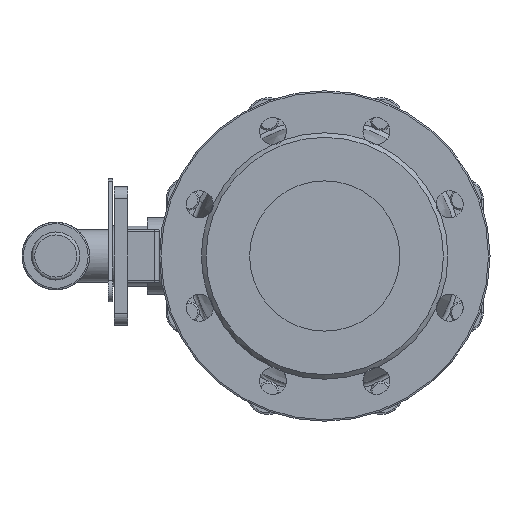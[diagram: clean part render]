
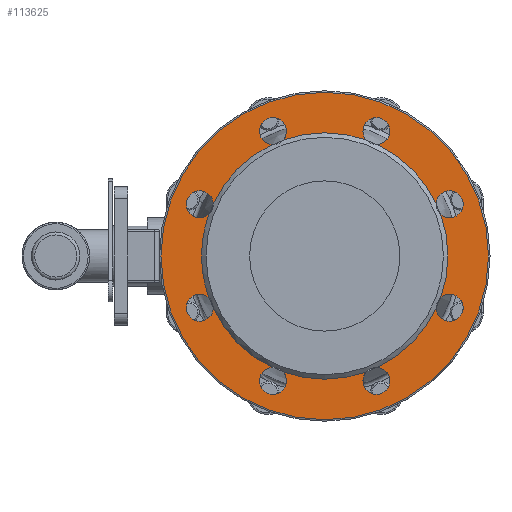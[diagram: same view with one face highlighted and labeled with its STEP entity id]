
A CAD part, left-side view. The second image highlights one B-rep face of the part: STEP entity #113625.
In plain terms, the highlighted planar face has unit normal (-1, 0, 0).
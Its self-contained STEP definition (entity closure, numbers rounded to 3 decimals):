
#113428=CARTESIAN_POINT('',(-80.,109.,0.0));
#113429=VERTEX_POINT('',#113428);
#113430=CARTESIAN_POINT('',(-80.,0.,0.0));
#113431=DIRECTION('',(1.0,0.0,0.0));
#113432=DIRECTION('',(0.0,-1.0,0.0));
#113433=AXIS2_PLACEMENT_3D('',#113430,#113431,#113432);
#113434=CIRCLE('',#113433,109.);
#113435=EDGE_CURVE('',#113429,#113429,#113434,.T.);
#113471=CARTESIAN_POINT('',(-80.,96.,0.0));
#113472=DIRECTION('',(-1.0,0.0,0.0));
#113473=DIRECTION('',(0.0,0.0,1.0));
#113474=AXIS2_PLACEMENT_3D('',#113471,#113472,#113473);
#113475=PLANE('',#113474);
#113476=ORIENTED_EDGE('',*,*,#113435,.F.);
#113477=EDGE_LOOP('',(#113476));
#113478=FACE_OUTER_BOUND('',#113477,.T.);
#113479=CARTESIAN_POINT('',(-80.,74.165,-34.979));
#113480=VERTEX_POINT('',#113479);
#113481=CARTESIAN_POINT('',(-80.,77.177,-27.709));
#113482=VERTEX_POINT('',#113481);
#113483=CARTESIAN_POINT('',(-80.,83.149,-34.442));
#113484=DIRECTION('',(1.0,0.0,0.0));
#113485=DIRECTION('',(0.0,0.0,-1.0));
#113486=AXIS2_PLACEMENT_3D('',#113483,#113484,#113485);
#113487=CIRCLE('',#113486,9.0);
#113488=EDGE_CURVE('',#113480,#113482,#113487,.T.);
#113489=ORIENTED_EDGE('',*,*,#113488,.T.);
#113490=CARTESIAN_POINT('',(-80.,77.177,27.709));
#113491=VERTEX_POINT('',#113490);
#113492=CARTESIAN_POINT('',(-80.,0.,0.0));
#113493=DIRECTION('',(1.0,0.0,0.0));
#113494=DIRECTION('',(0.0,1.0,0.0));
#113495=AXIS2_PLACEMENT_3D('',#113492,#113493,#113494);
#113496=CIRCLE('',#113495,82.);
#113497=EDGE_CURVE('',#113482,#113491,#113496,.T.);
#113498=ORIENTED_EDGE('',*,*,#113497,.T.);
#113499=CARTESIAN_POINT('',(-80.,74.165,34.979));
#113500=VERTEX_POINT('',#113499);
#113501=CARTESIAN_POINT('',(-80.,83.149,34.442));
#113502=DIRECTION('',(1.0,0.0,0.0));
#113503=DIRECTION('',(0.0,0.0,-1.0));
#113504=AXIS2_PLACEMENT_3D('',#113501,#113502,#113503);
#113505=CIRCLE('',#113504,9.0);
#113506=EDGE_CURVE('',#113491,#113500,#113505,.T.);
#113507=ORIENTED_EDGE('',*,*,#113506,.T.);
#113508=CARTESIAN_POINT('',(-80.,34.979,74.165));
#113509=VERTEX_POINT('',#113508);
#113510=CARTESIAN_POINT('',(-80.,0.,0.0));
#113511=DIRECTION('',(1.0,0.0,0.0));
#113512=DIRECTION('',(0.0,1.0,0.0));
#113513=AXIS2_PLACEMENT_3D('',#113510,#113511,#113512);
#113514=CIRCLE('',#113513,82.);
#113515=EDGE_CURVE('',#113500,#113509,#113514,.T.);
#113516=ORIENTED_EDGE('',*,*,#113515,.T.);
#113517=CARTESIAN_POINT('',(-80.,27.709,77.177));
#113518=VERTEX_POINT('',#113517);
#113519=CARTESIAN_POINT('',(-80.,34.442,83.149));
#113520=DIRECTION('',(1.0,0.0,0.0));
#113521=DIRECTION('',(0.0,0.0,-1.0));
#113522=AXIS2_PLACEMENT_3D('',#113519,#113520,#113521);
#113523=CIRCLE('',#113522,9.0);
#113524=EDGE_CURVE('',#113509,#113518,#113523,.T.);
#113525=ORIENTED_EDGE('',*,*,#113524,.T.);
#113526=CARTESIAN_POINT('',(-80.,-27.709,77.177));
#113527=VERTEX_POINT('',#113526);
#113528=CARTESIAN_POINT('',(-80.,0.,0.0));
#113529=DIRECTION('',(1.0,0.0,0.0));
#113530=DIRECTION('',(0.0,1.0,0.0));
#113531=AXIS2_PLACEMENT_3D('',#113528,#113529,#113530);
#113532=CIRCLE('',#113531,82.);
#113533=EDGE_CURVE('',#113518,#113527,#113532,.T.);
#113534=ORIENTED_EDGE('',*,*,#113533,.T.);
#113535=CARTESIAN_POINT('',(-80.,-34.979,74.165));
#113536=VERTEX_POINT('',#113535);
#113537=CARTESIAN_POINT('',(-80.,-34.442,83.149));
#113538=DIRECTION('',(1.0,0.0,0.0));
#113539=DIRECTION('',(0.0,0.0,-1.0));
#113540=AXIS2_PLACEMENT_3D('',#113537,#113538,#113539);
#113541=CIRCLE('',#113540,9.0);
#113542=EDGE_CURVE('',#113527,#113536,#113541,.T.);
#113543=ORIENTED_EDGE('',*,*,#113542,.T.);
#113544=CARTESIAN_POINT('',(-80.,-74.165,34.979));
#113545=VERTEX_POINT('',#113544);
#113546=CARTESIAN_POINT('',(-80.,0.,0.0));
#113547=DIRECTION('',(1.0,0.0,0.0));
#113548=DIRECTION('',(0.0,1.0,0.0));
#113549=AXIS2_PLACEMENT_3D('',#113546,#113547,#113548);
#113550=CIRCLE('',#113549,82.);
#113551=EDGE_CURVE('',#113536,#113545,#113550,.T.);
#113552=ORIENTED_EDGE('',*,*,#113551,.T.);
#113553=CARTESIAN_POINT('',(-80.,-77.177,27.709));
#113554=VERTEX_POINT('',#113553);
#113555=CARTESIAN_POINT('',(-80.,-83.149,34.442));
#113556=DIRECTION('',(1.0,0.0,0.0));
#113557=DIRECTION('',(0.0,0.0,-1.0));
#113558=AXIS2_PLACEMENT_3D('',#113555,#113556,#113557);
#113559=CIRCLE('',#113558,9.0);
#113560=EDGE_CURVE('',#113545,#113554,#113559,.T.);
#113561=ORIENTED_EDGE('',*,*,#113560,.T.);
#113562=CARTESIAN_POINT('',(-80.,-77.177,-27.709));
#113563=VERTEX_POINT('',#113562);
#113564=CARTESIAN_POINT('',(-80.,0.,0.0));
#113565=DIRECTION('',(1.0,0.0,0.0));
#113566=DIRECTION('',(0.0,1.0,0.0));
#113567=AXIS2_PLACEMENT_3D('',#113564,#113565,#113566);
#113568=CIRCLE('',#113567,82.);
#113569=EDGE_CURVE('',#113554,#113563,#113568,.T.);
#113570=ORIENTED_EDGE('',*,*,#113569,.T.);
#113571=CARTESIAN_POINT('',(-80.,-74.165,-34.979));
#113572=VERTEX_POINT('',#113571);
#113573=CARTESIAN_POINT('',(-80.,-83.149,-34.442));
#113574=DIRECTION('',(1.0,0.0,0.0));
#113575=DIRECTION('',(0.0,0.0,-1.0));
#113576=AXIS2_PLACEMENT_3D('',#113573,#113574,#113575);
#113577=CIRCLE('',#113576,9.0);
#113578=EDGE_CURVE('',#113563,#113572,#113577,.T.);
#113579=ORIENTED_EDGE('',*,*,#113578,.T.);
#113580=CARTESIAN_POINT('',(-80.,-34.979,-74.165));
#113581=VERTEX_POINT('',#113580);
#113582=CARTESIAN_POINT('',(-80.,0.,0.0));
#113583=DIRECTION('',(1.0,0.0,0.0));
#113584=DIRECTION('',(0.0,1.0,0.0));
#113585=AXIS2_PLACEMENT_3D('',#113582,#113583,#113584);
#113586=CIRCLE('',#113585,82.);
#113587=EDGE_CURVE('',#113572,#113581,#113586,.T.);
#113588=ORIENTED_EDGE('',*,*,#113587,.T.);
#113589=CARTESIAN_POINT('',(-80.,-27.709,-77.177));
#113590=VERTEX_POINT('',#113589);
#113591=CARTESIAN_POINT('',(-80.,-34.442,-83.149));
#113592=DIRECTION('',(1.0,0.0,0.0));
#113593=DIRECTION('',(0.0,0.0,-1.0));
#113594=AXIS2_PLACEMENT_3D('',#113591,#113592,#113593);
#113595=CIRCLE('',#113594,9.0);
#113596=EDGE_CURVE('',#113581,#113590,#113595,.T.);
#113597=ORIENTED_EDGE('',*,*,#113596,.T.);
#113598=CARTESIAN_POINT('',(-80.,27.709,-77.177));
#113599=VERTEX_POINT('',#113598);
#113600=CARTESIAN_POINT('',(-80.,0.,0.0));
#113601=DIRECTION('',(1.0,0.0,0.0));
#113602=DIRECTION('',(0.0,1.0,0.0));
#113603=AXIS2_PLACEMENT_3D('',#113600,#113601,#113602);
#113604=CIRCLE('',#113603,82.);
#113605=EDGE_CURVE('',#113590,#113599,#113604,.T.);
#113606=ORIENTED_EDGE('',*,*,#113605,.T.);
#113607=CARTESIAN_POINT('',(-80.,34.979,-74.165));
#113608=VERTEX_POINT('',#113607);
#113609=CARTESIAN_POINT('',(-80.,34.442,-83.149));
#113610=DIRECTION('',(1.0,0.0,0.0));
#113611=DIRECTION('',(0.0,0.0,-1.0));
#113612=AXIS2_PLACEMENT_3D('',#113609,#113610,#113611);
#113613=CIRCLE('',#113612,9.0);
#113614=EDGE_CURVE('',#113599,#113608,#113613,.T.);
#113615=ORIENTED_EDGE('',*,*,#113614,.T.);
#113616=CARTESIAN_POINT('',(-80.,0.,0.0));
#113617=DIRECTION('',(1.0,0.0,0.0));
#113618=DIRECTION('',(0.0,1.0,0.0));
#113619=AXIS2_PLACEMENT_3D('',#113616,#113617,#113618);
#113620=CIRCLE('',#113619,82.);
#113621=EDGE_CURVE('',#113608,#113480,#113620,.T.);
#113622=ORIENTED_EDGE('',*,*,#113621,.T.);
#113623=EDGE_LOOP('',(#113489,#113498,#113507,#113516,#113525,#113534,#113543,#113552,#113561,#113570,#113579,#113588,#113597,#113606,#113615,#113622));
#113624=FACE_BOUND('',#113623,.T.);
#113625=ADVANCED_FACE('',(#113478,#113624),#113475,.T.);
